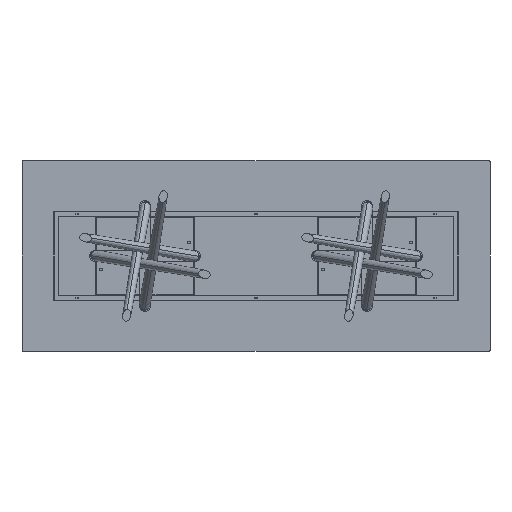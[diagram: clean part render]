
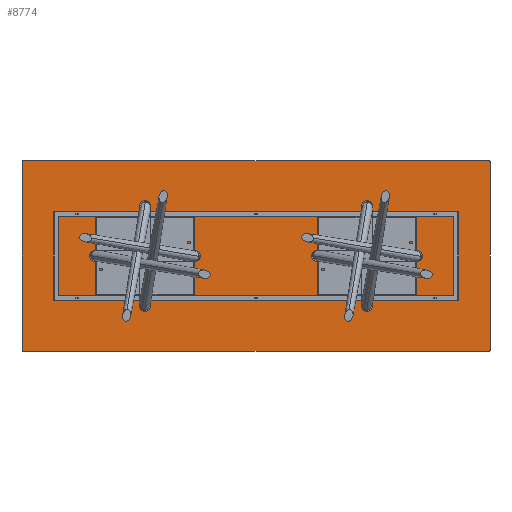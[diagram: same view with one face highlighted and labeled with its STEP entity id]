
A CAD part, front view. The second image highlights one B-rep face of the part: STEP entity #8774.
In plain terms, the highlighted planar face has unit normal (0, -1, 0).
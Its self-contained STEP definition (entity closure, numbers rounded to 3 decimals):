
#41 = DIRECTION ( 'NONE',  ( 0., 0., -1. ) ) ;
#396 = VERTEX_POINT ( 'NONE', #2392 ) ;
#428 = EDGE_CURVE ( 'NONE', #396, #4364, #8652, .T. ) ;
#507 = CARTESIAN_POINT ( 'NONE',  ( -1475., 0., -600. ) ) ;
#531 = VECTOR ( 'NONE', #41, 1000. ) ;
#768 = ORIENTED_EDGE ( 'NONE', *, *, #10152, .T. ) ;
#1004 = CARTESIAN_POINT ( 'NONE',  ( -1475., 0., 595. ) ) ;
#1044 = CARTESIAN_POINT ( 'NONE',  ( 1470., 0., 595. ) ) ;
#1355 = EDGE_CURVE ( 'NONE', #9606, #4364, #6716, .T. ) ;
#1459 = VECTOR ( 'NONE', #11811, 1000. ) ;
#1518 = CARTESIAN_POINT ( 'NONE',  ( 1470., 0., -595. ) ) ;
#1807 = EDGE_CURVE ( 'NONE', #9606, #6906, #5838, .T. ) ;
#1944 = DIRECTION ( 'NONE',  ( 0., 0., 1. ) ) ;
#1972 = AXIS2_PLACEMENT_3D ( 'NONE', #1044, #7815, #1944 ) ;
#2002 = DIRECTION ( 'NONE',  ( 0., 0., 1. ) ) ;
#2188 = EDGE_CURVE ( 'NONE', #9969, #6906, #4655, .T. ) ;
#2392 = CARTESIAN_POINT ( 'NONE',  ( -1470., 0., 600. ) ) ;
#2694 = CARTESIAN_POINT ( 'NONE',  ( -1470., 0., -600. ) ) ;
#2756 = CARTESIAN_POINT ( 'NONE',  ( 1475., 0., -595. ) ) ;
#2828 = ORIENTED_EDGE ( 'NONE', *, *, #2188, .T. ) ;
#2864 = ORIENTED_EDGE ( 'NONE', *, *, #8797, .F. ) ;
#3015 = ORIENTED_EDGE ( 'NONE', *, *, #9633, .T. ) ;
#3041 = CARTESIAN_POINT ( 'NONE',  ( -1475., 0., -600. ) ) ;
#3102 = LINE ( 'NONE', #3041, #1459 ) ;
#3312 = CARTESIAN_POINT ( 'NONE',  ( 1470., 0., -600. ) ) ;
#3368 = DIRECTION ( 'NONE',  ( 0., 0., 1. ) ) ;
#3716 = AXIS2_PLACEMENT_3D ( 'NONE', #5109, #5240, #4074 ) ;
#4074 = DIRECTION ( 'NONE',  ( 0., 0., 1. ) ) ;
#4364 = VERTEX_POINT ( 'NONE', #9388 ) ;
#4479 = VERTEX_POINT ( 'NONE', #1004 ) ;
#4655 = CIRCLE ( 'NONE', #9184, 5. ) ;
#4738 = CARTESIAN_POINT ( 'NONE',  ( -1470., 0., -595. ) ) ;
#4856 = DIRECTION ( 'NONE',  ( 0., -1., 0. ) ) ;
#5016 = CARTESIAN_POINT ( 'NONE',  ( 1475., 0., 595. ) ) ;
#5109 = CARTESIAN_POINT ( 'NONE',  ( 0., 0., 0. ) ) ;
#5240 = DIRECTION ( 'NONE',  ( 0., 1., 0. ) ) ;
#5244 = EDGE_LOOP ( 'NONE', ( #6375, #7942, #7224, #3015, #2864, #768, #11881, #2828 ) ) ;
#5317 = DIRECTION ( 'NONE',  ( 0., -1., 0. ) ) ;
#5400 = CARTESIAN_POINT ( 'NONE',  ( -1475., 0., -595. ) ) ;
#5838 = LINE ( 'NONE', #11822, #531 ) ;
#5987 = CIRCLE ( 'NONE', #6400, 5. ) ;
#6241 = VECTOR ( 'NONE', #8186, 1000. ) ;
#6266 = VECTOR ( 'NONE', #11533, 1000. ) ;
#6375 = ORIENTED_EDGE ( 'NONE', *, *, #1807, .F. ) ;
#6400 = AXIS2_PLACEMENT_3D ( 'NONE', #9866, #6899, #2002 ) ;
#6716 = CIRCLE ( 'NONE', #1972, 5. ) ;
#6899 = DIRECTION ( 'NONE',  ( 0., -1., 0. ) ) ;
#6906 = VERTEX_POINT ( 'NONE', #2756 ) ;
#6926 = PLANE ( 'NONE',  #3716 ) ;
#6981 = VERTEX_POINT ( 'NONE', #2694 ) ;
#7212 = LINE ( 'NONE', #507, #6241 ) ;
#7224 = ORIENTED_EDGE ( 'NONE', *, *, #428, .F. ) ;
#7656 = CIRCLE ( 'NONE', #8689, 5. ) ;
#7815 = DIRECTION ( 'NONE',  ( 0., -1., 0. ) ) ;
#7942 = ORIENTED_EDGE ( 'NONE', *, *, #1355, .T. ) ;
#7960 = DIRECTION ( 'NONE',  ( 0., 0., 1. ) ) ;
#8186 = DIRECTION ( 'NONE',  ( -1., 0., 0. ) ) ;
#8652 = LINE ( 'NONE', #12566, #6266 ) ;
#8689 = AXIS2_PLACEMENT_3D ( 'NONE', #4738, #4856, #7960 ) ;
#8774 = ADVANCED_FACE ( 'NONE', ( #12068 ), #6926, .F. ) ;
#8797 = EDGE_CURVE ( 'NONE', #10669, #4479, #3102, .T. ) ;
#9184 = AXIS2_PLACEMENT_3D ( 'NONE', #1518, #5317, #3368 ) ;
#9388 = CARTESIAN_POINT ( 'NONE',  ( 1470., 0., 600. ) ) ;
#9606 = VERTEX_POINT ( 'NONE', #5016 ) ;
#9633 = EDGE_CURVE ( 'NONE', #396, #4479, #5987, .T. ) ;
#9866 = CARTESIAN_POINT ( 'NONE',  ( -1470., 0., 595. ) ) ;
#9969 = VERTEX_POINT ( 'NONE', #3312 ) ;
#10152 = EDGE_CURVE ( 'NONE', #10669, #6981, #7656, .T. ) ;
#10669 = VERTEX_POINT ( 'NONE', #5400 ) ;
#11533 = DIRECTION ( 'NONE',  ( 1., 0., 0. ) ) ;
#11811 = DIRECTION ( 'NONE',  ( 0., 0., 1. ) ) ;
#11822 = CARTESIAN_POINT ( 'NONE',  ( 1475., 0., -600. ) ) ;
#11881 = ORIENTED_EDGE ( 'NONE', *, *, #12216, .F. ) ;
#12068 = FACE_OUTER_BOUND ( 'NONE', #5244, .T. ) ;
#12216 = EDGE_CURVE ( 'NONE', #9969, #6981, #7212, .T. ) ;
#12566 = CARTESIAN_POINT ( 'NONE',  ( -1475., 0., 600. ) ) ;
